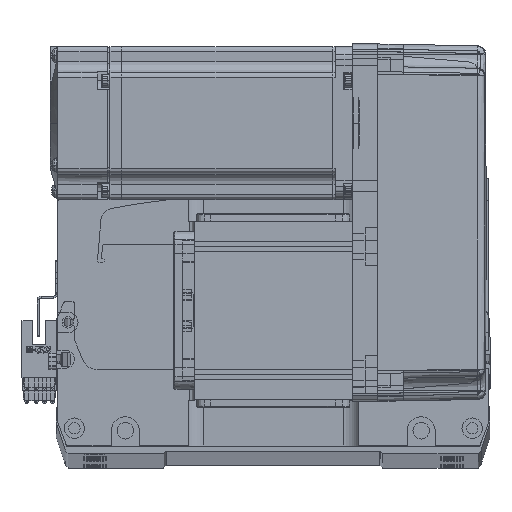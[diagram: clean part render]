
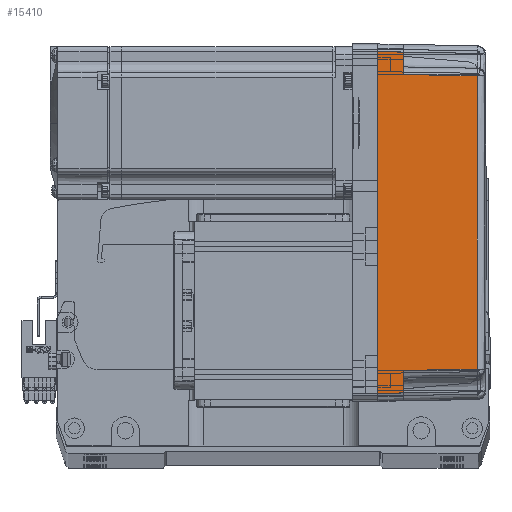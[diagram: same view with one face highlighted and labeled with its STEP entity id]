
A CAD part, top view. The second image highlights one B-rep face of the part: STEP entity #15410.
In plain terms, the highlighted planar face has unit normal (0.018, 0, 1) as drawn and (0, -1, 0.017) by its records, which use the part's own axes.
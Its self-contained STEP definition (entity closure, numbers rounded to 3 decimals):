
#1793 = EDGE_CURVE ( 'NONE', #9653, #13107, #67844, .T. ) ;
#4248 = DIRECTION ( 'NONE',  ( -1., 0., 0. ) ) ;
#4992 = CARTESIAN_POINT ( 'NONE',  ( 0., -36., 0. ) ) ;
#6312 = CARTESIAN_POINT ( 'NONE',  ( 57.495, -35.32, 38.985 ) ) ;
#6646 = LINE ( 'NONE', #51108, #53272 ) ;
#7191 = VECTOR ( 'NONE', #7805, 1000. ) ;
#7805 = DIRECTION ( 'NONE',  ( -0.017, 0.017, 1. ) ) ;
#9653 = VERTEX_POINT ( 'NONE', #56097 ) ;
#9926 = EDGE_CURVE ( 'NONE', #40770, #23479, #11952, .T. ) ;
#10162 = VECTOR ( 'NONE', #25710, 1000. ) ;
#10669 = EDGE_CURVE ( 'NONE', #69110, #39554, #36006, .T. ) ;
#11952 = LINE ( 'NONE', #29889, #27482 ) ;
#12020 = ORIENTED_EDGE ( 'NONE', *, *, #32012, .T. ) ;
#12109 = CARTESIAN_POINT ( 'NONE',  ( 58., -35.825, 10. ) ) ;
#13107 = VERTEX_POINT ( 'NONE', #54744 ) ;
#13952 = VERTEX_POINT ( 'NONE', #22432 ) ;
#14158 = FACE_OUTER_BOUND ( 'NONE', #48273, .T. ) ;
#15410 = ADVANCED_FACE ( 'NONE', ( #14158 ), #55907, .T. ) ;
#17302 = DIRECTION ( 'NONE',  ( -1., 0., 0. ) ) ;
#17331 = VECTOR ( 'NONE', #4248, 1000. ) ;
#17618 = AXIS2_PLACEMENT_3D ( 'NONE', #56761, #33888, #45088 ) ;
#17955 = ORIENTED_EDGE ( 'NONE', *, *, #56377, .F. ) ;
#19799 = CARTESIAN_POINT ( 'NONE',  ( -66.826, -35.825, 10. ) ) ;
#19878 = LINE ( 'NONE', #25178, #17331 ) ;
#20369 = ORIENTED_EDGE ( 'NONE', *, *, #68500, .T. ) ;
#22432 = CARTESIAN_POINT ( 'NONE',  ( 57.495, -35.32, 38.985 ) ) ;
#22663 = CARTESIAN_POINT ( 'NONE',  ( -57.495, -35.32, 38.985 ) ) ;
#23479 = VERTEX_POINT ( 'NONE', #19799 ) ;
#25178 = CARTESIAN_POINT ( 'NONE',  ( 70., -35.825, 10. ) ) ;
#25710 = DIRECTION ( 'NONE',  ( -0.017, -0.017, -1. ) ) ;
#27482 = VECTOR ( 'NONE', #41093, 1000. ) ;
#29889 = CARTESIAN_POINT ( 'NONE',  ( -66.959, -35.958, 2.39 ) ) ;
#30171 = CARTESIAN_POINT ( 'NONE',  ( 67., -36., 0. ) ) ;
#32012 = EDGE_CURVE ( 'NONE', #13107, #40084, #19878, .T. ) ;
#33313 = LINE ( 'NONE', #4992, #45470 ) ;
#33888 = DIRECTION ( 'NONE',  ( 0., -1., 0.017 ) ) ;
#35537 = CARTESIAN_POINT ( 'NONE',  ( -67., -36., 0. ) ) ;
#36006 = LINE ( 'NONE', #58866, #10162 ) ;
#38553 = LINE ( 'NONE', #12109, #43769 ) ;
#39554 = VERTEX_POINT ( 'NONE', #63850 ) ;
#39609 = CARTESIAN_POINT ( 'NONE',  ( -19.165, -35.316, 39.181 ) ) ;
#40084 = VERTEX_POINT ( 'NONE', #69747 ) ;
#40750 = CARTESIAN_POINT ( 'NONE',  ( -57.495, -35.32, 38.985 ) ) ;
#40770 = VERTEX_POINT ( 'NONE', #35537 ) ;
#41093 = DIRECTION ( 'NONE',  ( 0.017, 0.017, 1. ) ) ;
#43769 = VECTOR ( 'NONE', #52621, 1000. ) ;
#44688 = EDGE_CURVE ( 'NONE', #40084, #13952, #38553, .T. ) ;
#45088 = DIRECTION ( 'NONE',  ( 0., -0.017, -1. ) ) ;
#45470 = VECTOR ( 'NONE', #54228, 1000. ) ;
#48273 = EDGE_LOOP ( 'NONE', ( #70470, #12020, #68366, #20369, #61328, #52490, #70975, #17955 ) ) ;
#50948 = CARTESIAN_POINT ( 'NONE',  ( 19.165, -35.316, 39.181 ) ) ;
#51108 = CARTESIAN_POINT ( 'NONE',  ( 70., -35.825, 10. ) ) ;
#52490 = ORIENTED_EDGE ( 'NONE', *, *, #56067, .T. ) ;
#52621 = DIRECTION ( 'NONE',  ( -0.017, 0.017, 1. ) ) ;
#53272 = VECTOR ( 'NONE', #17302, 1000. ) ;
#53332 = B_SPLINE_CURVE_WITH_KNOTS ( 'NONE', 3,
 ( #6312, #50948, #39609, #22663 ),
 .UNSPECIFIED., .F., .F.,
 ( 4, 4 ),
 ( 0., 1. ),
 .UNSPECIFIED. ) ;
#54228 = DIRECTION ( 'NONE',  ( -1., 0., 0. ) ) ;
#54744 = CARTESIAN_POINT ( 'NONE',  ( 66.826, -35.825, 10. ) ) ;
#55907 = PLANE ( 'NONE',  #17618 ) ;
#56067 = EDGE_CURVE ( 'NONE', #39554, #23479, #6646, .T. ) ;
#56097 = CARTESIAN_POINT ( 'NONE',  ( 67., -36., 0. ) ) ;
#56377 = EDGE_CURVE ( 'NONE', #9653, #40770, #33313, .T. ) ;
#56761 = CARTESIAN_POINT ( 'NONE',  ( 70., -36., 0. ) ) ;
#58866 = CARTESIAN_POINT ( 'NONE',  ( -57.495, -35.32, 38.985 ) ) ;
#61328 = ORIENTED_EDGE ( 'NONE', *, *, #10669, .T. ) ;
#63850 = CARTESIAN_POINT ( 'NONE',  ( -58., -35.825, 10. ) ) ;
#67844 = LINE ( 'NONE', #30171, #7191 ) ;
#68366 = ORIENTED_EDGE ( 'NONE', *, *, #44688, .T. ) ;
#68500 = EDGE_CURVE ( 'NONE', #13952, #69110, #53332, .T. ) ;
#69110 = VERTEX_POINT ( 'NONE', #40750 ) ;
#69747 = CARTESIAN_POINT ( 'NONE',  ( 58., -35.825, 10. ) ) ;
#70470 = ORIENTED_EDGE ( 'NONE', *, *, #1793, .T. ) ;
#70975 = ORIENTED_EDGE ( 'NONE', *, *, #9926, .F. ) ;
